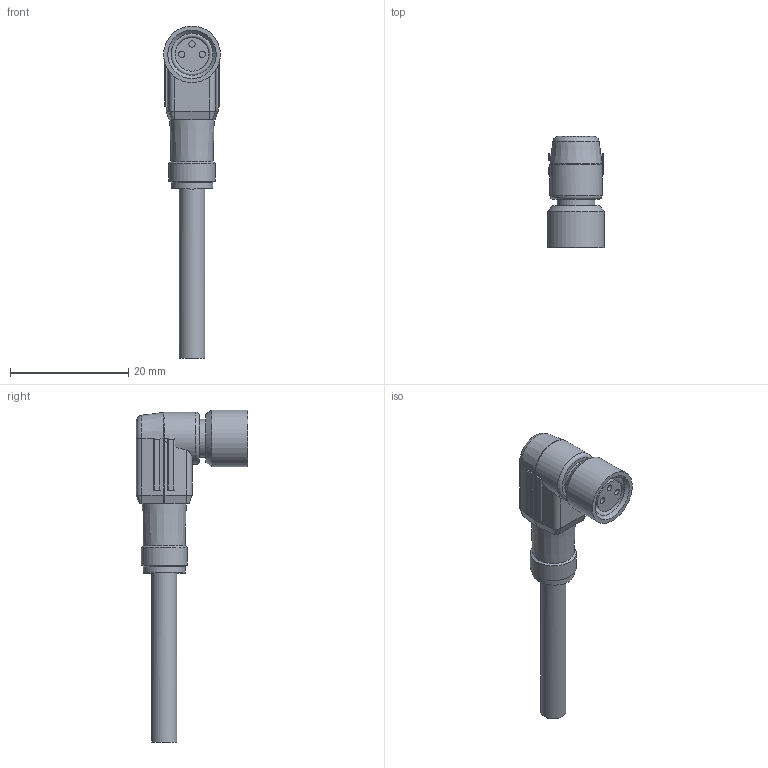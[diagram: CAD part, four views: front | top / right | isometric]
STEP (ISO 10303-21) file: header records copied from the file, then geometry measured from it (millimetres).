
FILE_DESCRIPTION( ( 'Unknown' ), '1' );
FILE_NAME( 'C:/Users/txr10011/Documents/1_in Bearbeitung/151016/Hüllmodelle/RKMWV__3-224_xxM.stp', 'Unknown', ( 'Unknown' ), ( 'Unknown' ), 'PSStep 17.0.49', 'Unknown', ' ' );
FILE_SCHEMA( ( 'AUTOMOTIVE_DESIGN { 1 0 10303 214 1 1 1 1 }' ) );
Length unit declared in the file: millimetre
Products named in the file (1): 224
Bounding box: 9.6 x 18.8 x 56.18 mm (x, y, z)
Volume: 2539 mm3; surface area: 1882.8 mm2
Topology: 1 solids, 2 shells, 150 faces, 365 edges, 229 vertices
Faces by surface type: plane 81, cylinder 46, cone 13, torus 5, extrusion 5
Full cylindrical faces by diameter (mm): 1.05 x3, 4.3 x1, 5.7 x1, 6.4 x1, 7.05 x1, 7.1 x2, 7.2 x1, 7.8 x1, 8.2 x1, 8.8 x1, 9.6 x1
Entity records: 5546 total; most frequent: CARTESIAN_POINT 966, DIRECTION 703, ORIENTED_EDGE 656, EDGE_CURVE 328, AXIS2_PLACEMENT_3D 242, VECTOR 219, VERTEX_POINT 217, LINE 214
